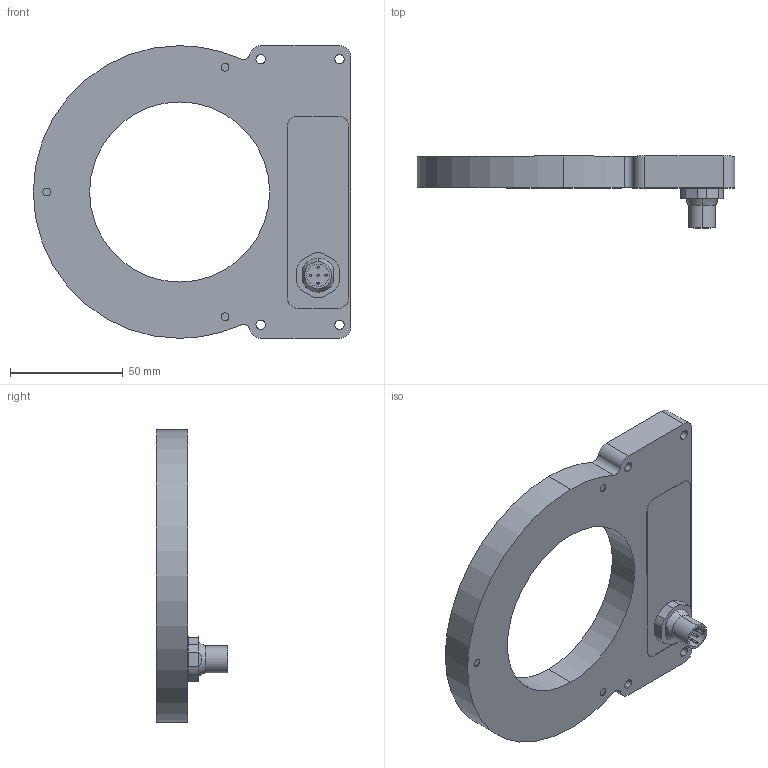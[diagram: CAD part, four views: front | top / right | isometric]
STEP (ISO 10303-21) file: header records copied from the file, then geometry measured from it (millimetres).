
FILE_DESCRIPTION (( 'STEP AP214' ), '1' );
FILE_NAME ('02201.01 Basisbaugruppe SRL-12 (power version) Step11112020.STEP', '2020-11-11T08:45:04', ( '' ), ( '' ), 'SwSTEP 2.0', 'SolidWorks 2013', '' );
FILE_SCHEMA (( 'AUTOMOTIVE_DESIGN' ));
Length unit declared in the file: millimetre
Products named in the file (1): 02201.01 Basisbaugruppe SRL-12 (power version) Step11112020
Bounding box: 141 x 31.8 x 130 mm (x, y, z)
Volume: 101100.5 mm3; surface area: 66124.1 mm2
Topology: 4 solids, 4 shells, 209 faces, 521 edges, 340 vertices
Faces by surface type: cylinder 120, plane 83, sphere 4, cone 2
Entity records: 8716 total; most frequent: DIRECTION 1176, CARTESIAN_POINT 1115, ORIENTED_EDGE 1038, EDGE_CURVE 519, AXIS2_PLACEMENT_3D 453, VERTEX_POINT 340, VECTOR 270, LINE 270
